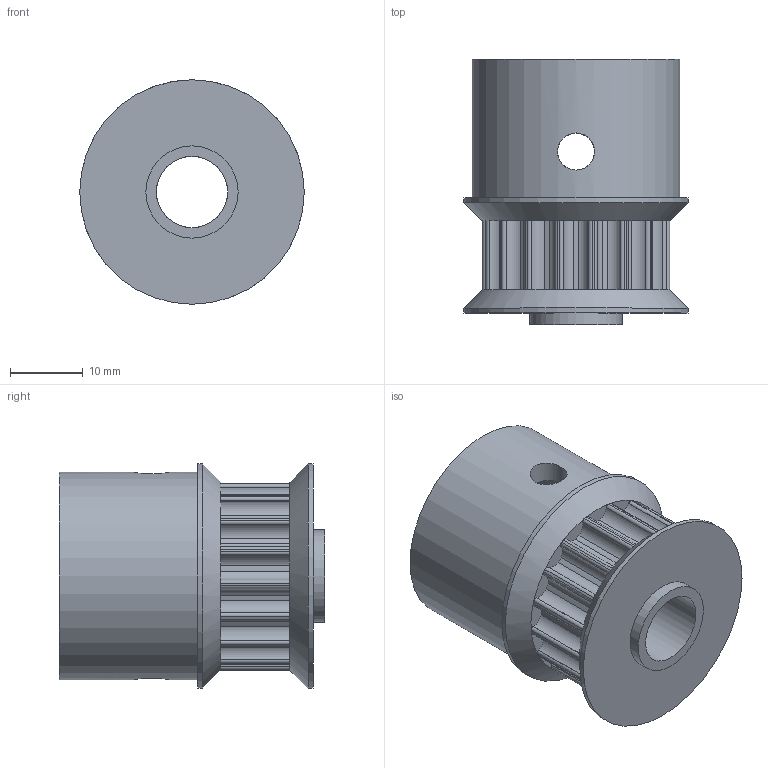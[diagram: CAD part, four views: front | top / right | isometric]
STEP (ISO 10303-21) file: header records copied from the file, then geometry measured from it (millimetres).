
FILE_DESCRIPTION(/* description */ ('STEP AP242 Edition 2','CAx-IF Rec.Pracs.---Representation and Presentation of Product Manufacturing Information (PMI)---4.0---2014-10-13','CAx-IF Rec.Pracs.---3D Tessellated Geometry---0.4---2014-09-14','2;1','CAx-IF Rec.Pracs.---User Defined Attributes---1.5---2016-08-15'),/* implementation_level */ '2;1');
FILE_NAME(/* name */ '6933155e6c1d25cabc4fd7ea',/* time_stamp */ '2025-12-05T17:24:46Z',/* author */ (''),/* organization */ (''),/* preprocessor_version */ 'ST-DEVELOPER v20',/* originating_system */ 'ONSHAPE BY PTC INC, 1.207',/* authorisation */ ' ');
FILE_SCHEMA (('AP242_MANAGED_MODEL_BASED_3D_ENGINEERING_MIM_LF { 1 0 10303 442 3 1 4 }'));
Length unit declared in the file: metre
Products named in the file (1): 17T Dead Axle Roller Insert
Bounding box: 30.91 x 36.51 x 30.91 mm (x, y, z)
Volume: 14960.1 mm3; surface area: 6944.4 mm2
Topology: 1 solids, 1 shells, 197 faces, 514 edges, 320 vertices
Faces by surface type: cylinder 109, plane 86, cone 2
Full cylindrical faces by diameter (mm): 5.105 x2, 9.804 x1, 12.7 x1, 28.575 x1, 30.913 x2
Entity records: 6014 total; most frequent: DIRECTION 1144, CARTESIAN_POINT 1028, ORIENTED_EDGE 994, EDGE_CURVE 497, AXIS2_PLACEMENT_3D 451, VERTEX_POINT 313, CIRCLE 253, LINE 242
